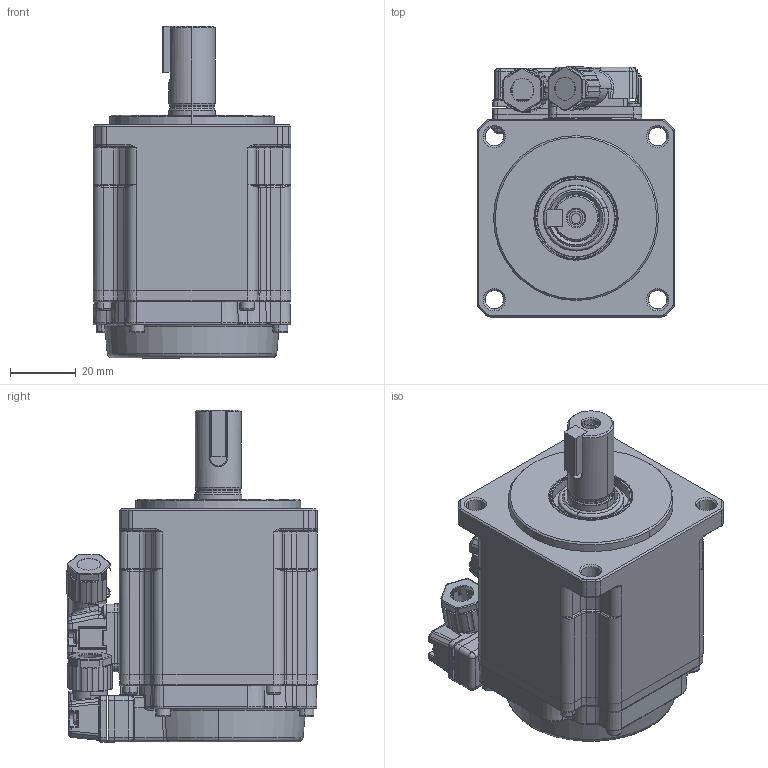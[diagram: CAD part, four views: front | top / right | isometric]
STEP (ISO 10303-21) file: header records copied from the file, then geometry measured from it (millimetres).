
FILE_DESCRIPTION (( 'STEP AP214' ), '1' );
FILE_NAME ('60x60-200W伺服电机_通用外形图_A0.STEP', '2023-09-15T01:18:53', ( '' ), ( '' ), 'SwSTEP 2.0', 'SolidWorks 2020', '' );
FILE_SCHEMA (( 'AUTOMOTIVE_DESIGN' ));
Length unit declared in the file: millimetre
Products named in the file (1): 60x60-200W伺服电机_通用外形图_A0
Bounding box: 60 x 75.95 x 100.7 mm (x, y, z)
Surface area: 32066.1 mm2 (no closed solid volume)
Topology: 0 solids, 26 shells, 1421 faces, 4799 edges, 3200 vertices
Faces by surface type: plane 471, cylinder 440, torus 221, bspline 155, cone 104, sphere 30
Entity records: 74458 total; most frequent: CARTESIAN_POINT 19666, ORIENTED_EDGE 7825, DIRECTION 7802, EDGE_CURVE 4759, VERTEX_POINT 3200, AXIS2_PLACEMENT_3D 2812, VECTOR 2178, LINE 2178
